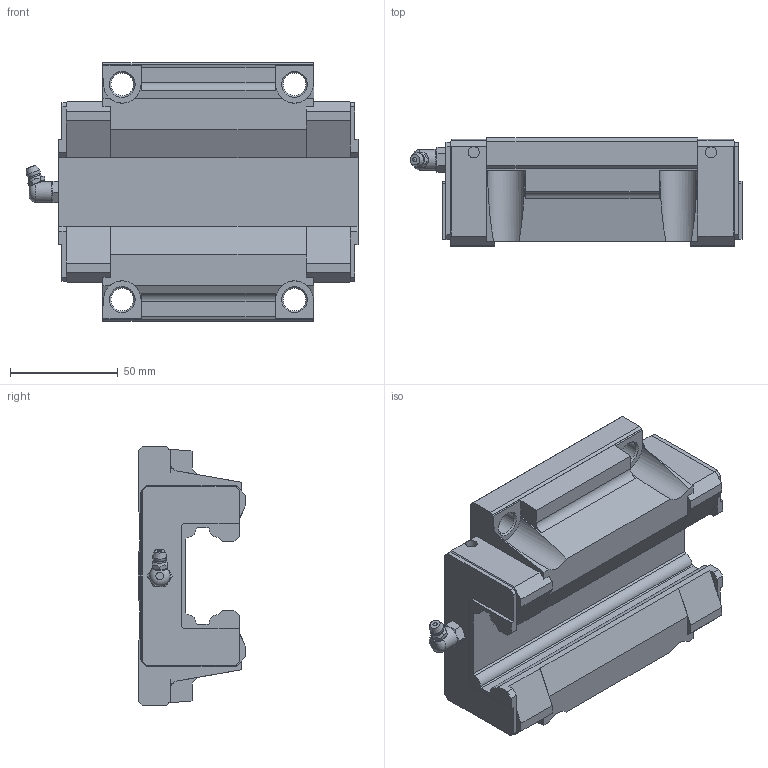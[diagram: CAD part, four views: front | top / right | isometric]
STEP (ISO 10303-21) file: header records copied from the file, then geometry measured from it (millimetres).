
FILE_DESCRIPTION(/* description */ ('STEP AP203'),/* implementation_level */ '2;1');
FILE_NAME(/* name */ 'HSR45C1SS(GK) BLOCK(1B-PT1_8)',/* time_stamp */ '2024-05-21T04:55:16+02:00',/* author */ ('License CC BY-ND 4.0'),/* organization */ ('CADENAS'),/* preprocessor_version */ 'ST-DEVELOPER v19.3',/* originating_system */ 'PARTsolutions',/* authorisation */ ' ');
FILE_SCHEMA (('CONFIG_CONTROL_DESIGN'));
Length unit declared in the file: millimetre
Products named in the file (3): HSR45C1SS(GK) BLOCK(1B-PT1/8); HSR45CSSB-PT1/811 S; hsr_ftht_B-PT1/8_grease_nipple_joint
Assembly tree (2 placements, depth 2):
  HSR45C1SS(GK) BLOCK(1B-PT1/8)
    HSR45CSSB-PT1/811 S
    hsr_ftht_B-PT1/8_grease_nipple_joint
Bounding box: 154.2 x 50 x 120 mm (x, y, z)
Volume: 483207.9 mm3; surface area: 62047.6 mm2
Topology: 2 solids, 2 shells, 229 faces, 632 edges, 411 vertices
Faces by surface type: plane 171, cylinder 33, cone 20, torus 3, sphere 2
Full cylindrical faces by diameter (mm): 5.2 x4, 9.6 x1, 10.2 x2, 10.5 x4
Entity records: 7012 total; most frequent: CARTESIAN_POINT 1351, ORIENTED_EDGE 1150, DIRECTION 1106, EDGE_CURVE 575, LINE 438, VECTOR 438, VERTEX_POINT 392, AXIS2_PLACEMENT_3D 334
